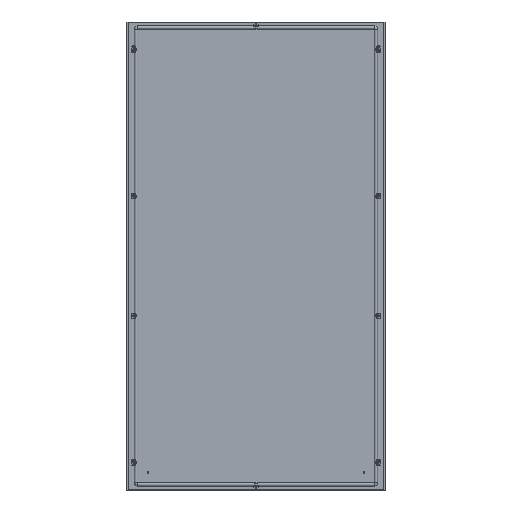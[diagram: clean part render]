
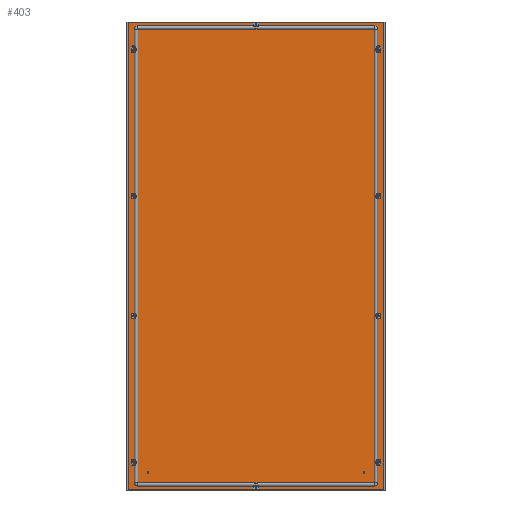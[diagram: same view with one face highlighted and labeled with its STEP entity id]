
A CAD part, top view. The second image highlights one B-rep face of the part: STEP entity #403.
In plain terms, the highlighted planar face has unit normal (0, 0, 1).
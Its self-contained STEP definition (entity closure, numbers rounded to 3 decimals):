
#403 = ADVANCED_FACE('',(#404,#502,#513,#524,#535,#546,#566,#586,#597,
    #608,#628),#648,.F.);
#404 = FACE_BOUND('',#405,.T.);
#405 = EDGE_LOOP('',(#406,#416,#424,#432,#440,#448,#456,#464,#472,#480,
    #488,#496));
#406 = ORIENTED_EDGE('',*,*,#407,.F.);
#407 = EDGE_CURVE('',#408,#410,#412,.T.);
#408 = VERTEX_POINT('',#409);
#409 = CARTESIAN_POINT('',(-595.5,1077.5,
    0.));
#410 = VERTEX_POINT('',#411);
#411 = CARTESIAN_POINT('',(-595.3,1077.5,0.));
#412 = LINE('',#413,#414);
#413 = CARTESIAN_POINT('',(0.,1077.5,
    0.));
#414 = VECTOR('',#415,1.);
#415 = DIRECTION('',(1.,-0.,0.));
#416 = ORIENTED_EDGE('',*,*,#417,.T.);
#417 = EDGE_CURVE('',#408,#418,#420,.T.);
#418 = VERTEX_POINT('',#419);
#419 = CARTESIAN_POINT('',(-595.5,-1077.5,
    0.));
#420 = LINE('',#421,#422);
#421 = CARTESIAN_POINT('',(-595.5,0.,0.));
#422 = VECTOR('',#423,1.);
#423 = DIRECTION('',(0.,-1.,-0.));
#424 = ORIENTED_EDGE('',*,*,#425,.T.);
#425 = EDGE_CURVE('',#418,#426,#428,.T.);
#426 = VERTEX_POINT('',#427);
#427 = CARTESIAN_POINT('',(-595.3,-1077.5,0.));
#428 = LINE('',#429,#430);
#429 = CARTESIAN_POINT('',(0.,-1077.5,
    0.));
#430 = VECTOR('',#431,1.);
#431 = DIRECTION('',(1.,-0.,-0.));
#432 = ORIENTED_EDGE('',*,*,#433,.F.);
#433 = EDGE_CURVE('',#434,#426,#436,.T.);
#434 = VERTEX_POINT('',#435);
#435 = CARTESIAN_POINT('',(-595.3,-1076.,0.));
#436 = LINE('',#437,#438);
#437 = CARTESIAN_POINT('',(-595.3,0.,0.
    ));
#438 = VECTOR('',#439,1.);
#439 = DIRECTION('',(0.,-1.,0.));
#440 = ORIENTED_EDGE('',*,*,#441,.T.);
#441 = EDGE_CURVE('',#434,#442,#444,.T.);
#442 = VERTEX_POINT('',#443);
#443 = CARTESIAN_POINT('',(595.3,-1076.,
    0.));
#444 = LINE('',#445,#446);
#445 = CARTESIAN_POINT('',(0.,-1076.,
    0.));
#446 = VECTOR('',#447,1.);
#447 = DIRECTION('',(1.,-0.,-0.));
#448 = ORIENTED_EDGE('',*,*,#449,.T.);
#449 = EDGE_CURVE('',#442,#450,#452,.T.);
#450 = VERTEX_POINT('',#451);
#451 = CARTESIAN_POINT('',(595.3,-1077.5,
    0.));
#452 = LINE('',#453,#454);
#453 = CARTESIAN_POINT('',(595.3,-1076.,
    0.));
#454 = VECTOR('',#455,1.);
#455 = DIRECTION('',(0.,-1.,-0.));
#456 = ORIENTED_EDGE('',*,*,#457,.F.);
#457 = EDGE_CURVE('',#458,#450,#460,.T.);
#458 = VERTEX_POINT('',#459);
#459 = CARTESIAN_POINT('',(595.5,-1077.5,
    0.));
#460 = LINE('',#461,#462);
#461 = CARTESIAN_POINT('',(0.,-1077.5,
    0.));
#462 = VECTOR('',#463,1.);
#463 = DIRECTION('',(-1.,0.,0.));
#464 = ORIENTED_EDGE('',*,*,#465,.T.);
#465 = EDGE_CURVE('',#458,#466,#468,.T.);
#466 = VERTEX_POINT('',#467);
#467 = CARTESIAN_POINT('',(595.5,1077.5,
    0.));
#468 = LINE('',#469,#470);
#469 = CARTESIAN_POINT('',(595.5,0.,0.));
#470 = VECTOR('',#471,1.);
#471 = DIRECTION('',(-0.,1.,-0.));
#472 = ORIENTED_EDGE('',*,*,#473,.T.);
#473 = EDGE_CURVE('',#466,#474,#476,.T.);
#474 = VERTEX_POINT('',#475);
#475 = CARTESIAN_POINT('',(595.3,1077.5,
    0.));
#476 = LINE('',#477,#478);
#477 = CARTESIAN_POINT('',(0.,1077.5,
    0.));
#478 = VECTOR('',#479,1.);
#479 = DIRECTION('',(-1.,-0.,-0.));
#480 = ORIENTED_EDGE('',*,*,#481,.F.);
#481 = EDGE_CURVE('',#482,#474,#484,.T.);
#482 = VERTEX_POINT('',#483);
#483 = CARTESIAN_POINT('',(595.3,1076.,0.
    ));
#484 = LINE('',#485,#486);
#485 = CARTESIAN_POINT('',(595.3,0.,
    0.));
#486 = VECTOR('',#487,1.);
#487 = DIRECTION('',(0.,1.,0.));
#488 = ORIENTED_EDGE('',*,*,#489,.T.);
#489 = EDGE_CURVE('',#482,#490,#492,.T.);
#490 = VERTEX_POINT('',#491);
#491 = CARTESIAN_POINT('',(-595.3,1076.,0.));
#492 = LINE('',#493,#494);
#493 = CARTESIAN_POINT('',(0.,1076.,
    0.));
#494 = VECTOR('',#495,1.);
#495 = DIRECTION('',(-1.,-0.,-0.));
#496 = ORIENTED_EDGE('',*,*,#497,.T.);
#497 = EDGE_CURVE('',#490,#410,#498,.T.);
#498 = LINE('',#499,#500);
#499 = CARTESIAN_POINT('',(-595.3,1076.,0.));
#500 = VECTOR('',#501,1.);
#501 = DIRECTION('',(0.,1.,-0.));
#502 = FACE_BOUND('',#503,.T.);
#503 = EDGE_LOOP('',(#504));
#504 = ORIENTED_EDGE('',*,*,#505,.T.);
#505 = EDGE_CURVE('',#506,#506,#508,.T.);
#506 = VERTEX_POINT('',#507);
#507 = CARTESIAN_POINT('',(-4.75,1064.5,
    0.));
#508 = CIRCLE('',#509,4.75);
#509 = AXIS2_PLACEMENT_3D('',#510,#511,#512);
#510 = CARTESIAN_POINT('',(0.,1064.5,0.));
#511 = DIRECTION('',(0.,0.,-1.));
#512 = DIRECTION('',(-1.,0.,0.));
#513 = FACE_BOUND('',#514,.T.);
#514 = EDGE_LOOP('',(#515));
#515 = ORIENTED_EDGE('',*,*,#516,.T.);
#516 = EDGE_CURVE('',#517,#517,#519,.T.);
#517 = VERTEX_POINT('',#518);
#518 = CARTESIAN_POINT('',(4.75,-1064.5,
    0.));
#519 = CIRCLE('',#520,4.75);
#520 = AXIS2_PLACEMENT_3D('',#521,#522,#523);
#521 = CARTESIAN_POINT('',(0.,-1064.5,0.));
#522 = DIRECTION('',(0.,0.,-1.));
#523 = DIRECTION('',(1.,0.,0.));
#524 = FACE_BOUND('',#525,.T.);
#525 = EDGE_LOOP('',(#526));
#526 = ORIENTED_EDGE('',*,*,#527,.T.);
#527 = EDGE_CURVE('',#528,#528,#530,.T.);
#528 = VERTEX_POINT('',#529);
#529 = CARTESIAN_POINT('',(-564.5,-270.25,
    0.));
#530 = CIRCLE('',#531,4.75);
#531 = AXIS2_PLACEMENT_3D('',#532,#533,#534);
#532 = CARTESIAN_POINT('',(-564.5,-275.,0.));
#533 = DIRECTION('',(0.,0.,-1.));
#534 = DIRECTION('',(0.,1.,0.));
#535 = FACE_BOUND('',#536,.T.);
#536 = EDGE_LOOP('',(#537));
#537 = ORIENTED_EDGE('',*,*,#538,.T.);
#538 = EDGE_CURVE('',#539,#539,#541,.T.);
#539 = VERTEX_POINT('',#540);
#540 = CARTESIAN_POINT('',(564.5,-279.75,
    0.));
#541 = CIRCLE('',#542,4.75);
#542 = AXIS2_PLACEMENT_3D('',#543,#544,#545);
#543 = CARTESIAN_POINT('',(564.5,-275.,0.));
#544 = DIRECTION('',(-0.,0.,-1.));
#545 = DIRECTION('',(0.,-1.,0.));
#546 = FACE_BOUND('',#547,.T.);
#547 = EDGE_LOOP('',(#548,#559));
#548 = ORIENTED_EDGE('',*,*,#549,.F.);
#549 = EDGE_CURVE('',#550,#552,#554,.T.);
#550 = VERTEX_POINT('',#551);
#551 = CARTESIAN_POINT('',(-564.5,954.75,
    0.));
#552 = VERTEX_POINT('',#553);
#553 = CARTESIAN_POINT('',(-564.5,945.25,
    0.));
#554 = CIRCLE('',#555,4.75);
#555 = AXIS2_PLACEMENT_3D('',#556,#557,#558);
#556 = CARTESIAN_POINT('',(-564.5,950.,
    0.));
#557 = DIRECTION('',(0.,0.,1.));
#558 = DIRECTION('',(0.,1.,0.));
#559 = ORIENTED_EDGE('',*,*,#560,.F.);
#560 = EDGE_CURVE('',#552,#550,#561,.T.);
#561 = CIRCLE('',#562,4.75);
#562 = AXIS2_PLACEMENT_3D('',#563,#564,#565);
#563 = CARTESIAN_POINT('',(-564.5,950.,
    0.));
#564 = DIRECTION('',(0.,0.,1.));
#565 = DIRECTION('',(0.,1.,0.));
#566 = FACE_BOUND('',#567,.T.);
#567 = EDGE_LOOP('',(#568,#579));
#568 = ORIENTED_EDGE('',*,*,#569,.F.);
#569 = EDGE_CURVE('',#570,#572,#574,.T.);
#570 = VERTEX_POINT('',#571);
#571 = CARTESIAN_POINT('',(564.5,945.25,
    0.));
#572 = VERTEX_POINT('',#573);
#573 = CARTESIAN_POINT('',(564.5,954.75,
    0.));
#574 = CIRCLE('',#575,4.75);
#575 = AXIS2_PLACEMENT_3D('',#576,#577,#578);
#576 = CARTESIAN_POINT('',(564.5,950.,
    0.));
#577 = DIRECTION('',(0.,0.,1.));
#578 = DIRECTION('',(0.,-1.,0.));
#579 = ORIENTED_EDGE('',*,*,#580,.F.);
#580 = EDGE_CURVE('',#572,#570,#581,.T.);
#581 = CIRCLE('',#582,4.75);
#582 = AXIS2_PLACEMENT_3D('',#583,#584,#585);
#583 = CARTESIAN_POINT('',(564.5,950.,
    0.));
#584 = DIRECTION('',(0.,0.,1.));
#585 = DIRECTION('',(0.,-1.,0.));
#586 = FACE_BOUND('',#587,.T.);
#587 = EDGE_LOOP('',(#588));
#588 = ORIENTED_EDGE('',*,*,#589,.T.);
#589 = EDGE_CURVE('',#590,#590,#592,.T.);
#590 = VERTEX_POINT('',#591);
#591 = CARTESIAN_POINT('',(-564.5,-945.25,
    0.));
#592 = CIRCLE('',#593,4.75);
#593 = AXIS2_PLACEMENT_3D('',#594,#595,#596);
#594 = CARTESIAN_POINT('',(-564.5,-950.,0.));
#595 = DIRECTION('',(0.,0.,-1.));
#596 = DIRECTION('',(0.,1.,0.));
#597 = FACE_BOUND('',#598,.T.);
#598 = EDGE_LOOP('',(#599));
#599 = ORIENTED_EDGE('',*,*,#600,.T.);
#600 = EDGE_CURVE('',#601,#601,#603,.T.);
#601 = VERTEX_POINT('',#602);
#602 = CARTESIAN_POINT('',(564.5,-954.75,
    0.));
#603 = CIRCLE('',#604,4.75);
#604 = AXIS2_PLACEMENT_3D('',#605,#606,#607);
#605 = CARTESIAN_POINT('',(564.5,-950.,0.));
#606 = DIRECTION('',(-0.,0.,-1.));
#607 = DIRECTION('',(0.,-1.,0.));
#608 = FACE_BOUND('',#609,.T.);
#609 = EDGE_LOOP('',(#610,#621));
#610 = ORIENTED_EDGE('',*,*,#611,.F.);
#611 = EDGE_CURVE('',#612,#614,#616,.T.);
#612 = VERTEX_POINT('',#613);
#613 = CARTESIAN_POINT('',(564.5,270.25,
    0.));
#614 = VERTEX_POINT('',#615);
#615 = CARTESIAN_POINT('',(564.5,279.75,
    0.));
#616 = CIRCLE('',#617,4.75);
#617 = AXIS2_PLACEMENT_3D('',#618,#619,#620);
#618 = CARTESIAN_POINT('',(564.5,275.,
    0.));
#619 = DIRECTION('',(0.,0.,1.));
#620 = DIRECTION('',(0.,-1.,0.));
#621 = ORIENTED_EDGE('',*,*,#622,.F.);
#622 = EDGE_CURVE('',#614,#612,#623,.T.);
#623 = CIRCLE('',#624,4.75);
#624 = AXIS2_PLACEMENT_3D('',#625,#626,#627);
#625 = CARTESIAN_POINT('',(564.5,275.,
    0.));
#626 = DIRECTION('',(0.,0.,1.));
#627 = DIRECTION('',(0.,-1.,0.));
#628 = FACE_BOUND('',#629,.T.);
#629 = EDGE_LOOP('',(#630,#641));
#630 = ORIENTED_EDGE('',*,*,#631,.F.);
#631 = EDGE_CURVE('',#632,#634,#636,.T.);
#632 = VERTEX_POINT('',#633);
#633 = CARTESIAN_POINT('',(-564.5,279.75,
    0.));
#634 = VERTEX_POINT('',#635);
#635 = CARTESIAN_POINT('',(-564.5,270.25,
    0.));
#636 = CIRCLE('',#637,4.75);
#637 = AXIS2_PLACEMENT_3D('',#638,#639,#640);
#638 = CARTESIAN_POINT('',(-564.5,275.,
    0.));
#639 = DIRECTION('',(0.,0.,1.));
#640 = DIRECTION('',(0.,1.,0.));
#641 = ORIENTED_EDGE('',*,*,#642,.F.);
#642 = EDGE_CURVE('',#634,#632,#643,.T.);
#643 = CIRCLE('',#644,4.75);
#644 = AXIS2_PLACEMENT_3D('',#645,#646,#647);
#645 = CARTESIAN_POINT('',(-564.5,275.,
    0.));
#646 = DIRECTION('',(0.,0.,1.));
#647 = DIRECTION('',(0.,1.,0.));
#648 = PLANE('',#649);
#649 = AXIS2_PLACEMENT_3D('',#650,#651,#652);
#650 = CARTESIAN_POINT('',(0.,0.,0.));
#651 = DIRECTION('',(0.,0.,-1.));
#652 = DIRECTION('',(-1.,0.,0.));
